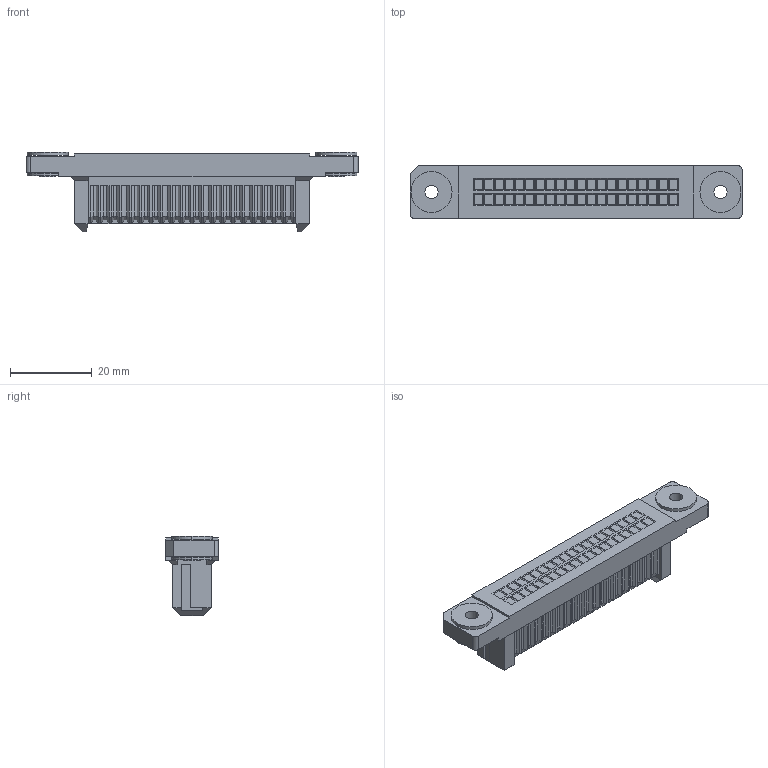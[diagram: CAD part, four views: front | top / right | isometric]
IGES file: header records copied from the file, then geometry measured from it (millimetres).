
Start section: Elysium IGES Interface
Bounding box: 81 x 12.9 x 19.45 mm (x, y, z)
Volume: 10349.5 mm3; surface area: 5640.1 mm2
Topology: 1 solids, 1 shells, 784 faces, 1854 edges, 1122 vertices
Faces by surface type: bspline 784
